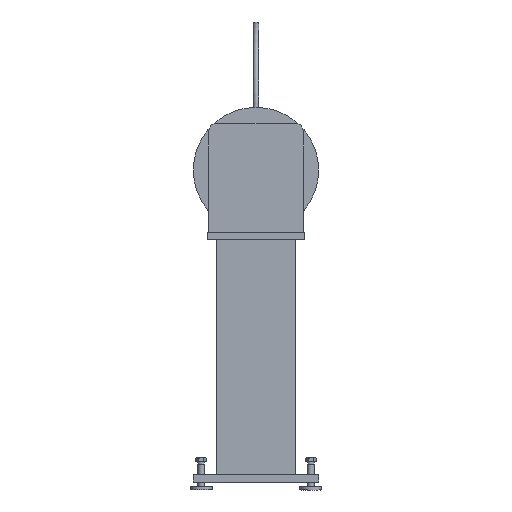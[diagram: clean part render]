
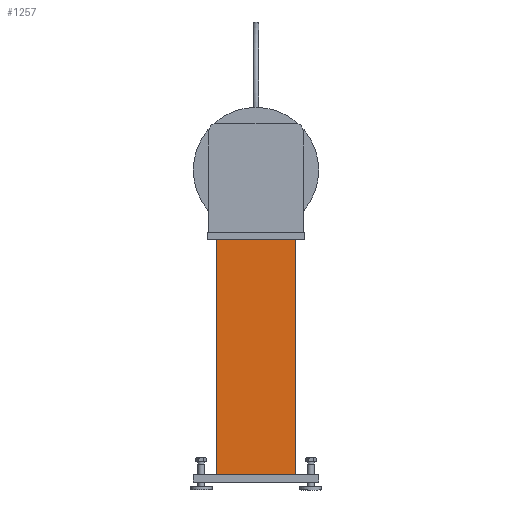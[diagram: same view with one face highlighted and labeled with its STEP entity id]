
A CAD part, front view. The second image highlights one B-rep face of the part: STEP entity #1257.
In plain terms, the highlighted planar face has unit normal (0, -1, 0).
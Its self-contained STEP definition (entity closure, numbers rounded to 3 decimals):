
#201=CARTESIAN_POINT('',(-125.,-1037.5,-140.));
#202=VERTEX_POINT('',#201);
#209=CARTESIAN_POINT('',(-125.,-1037.5,607.5));
#210=VERTEX_POINT('',#209);
#211=CARTESIAN_POINT('',(-125.,-1037.5,-140.));
#212=DIRECTION('',(0.0,0.0,1.0));
#213=VECTOR('',#212,747.5);
#214=LINE('',#211,#213);
#215=EDGE_CURVE('',#202,#210,#214,.T.);
#395=CARTESIAN_POINT('',(125.,-1037.5,-140.));
#396=VERTEX_POINT('',#395);
#397=CARTESIAN_POINT('',(125.,-1037.5,-140.));
#398=DIRECTION('',(-1.0,0.0,0.0));
#399=VECTOR('',#398,250.);
#400=LINE('',#397,#399);
#401=EDGE_CURVE('',#396,#202,#400,.T.);
#1053=CARTESIAN_POINT('',(125.,-1037.5,607.5));
#1054=VERTEX_POINT('',#1053);
#1055=CARTESIAN_POINT('',(-125.,-1037.5,607.5));
#1056=DIRECTION('',(1.0,0.0,0.0));
#1057=VECTOR('',#1056,250.0);
#1058=LINE('',#1055,#1057);
#1059=EDGE_CURVE('',#210,#1054,#1058,.T.);
#1218=CARTESIAN_POINT('',(125.,-1037.5,-140.));
#1219=DIRECTION('',(0.0,0.0,1.0));
#1220=VECTOR('',#1219,747.5);
#1221=LINE('',#1218,#1220);
#1222=EDGE_CURVE('',#396,#1054,#1221,.T.);
#1246=CARTESIAN_POINT('',(109.,-1037.5,233.75));
#1247=DIRECTION('',(0.0,-1.0,0.0));
#1248=DIRECTION('',(1.0,0.0,0.0));
#1249=AXIS2_PLACEMENT_3D('',#1246,#1247,#1248);
#1250=PLANE('',#1249);
#1251=ORIENTED_EDGE('',*,*,#1059,.F.);
#1252=ORIENTED_EDGE('',*,*,#215,.F.);
#1253=ORIENTED_EDGE('',*,*,#401,.F.);
#1254=ORIENTED_EDGE('',*,*,#1222,.T.);
#1255=EDGE_LOOP('',(#1251,#1252,#1253,#1254));
#1256=FACE_OUTER_BOUND('',#1255,.T.);
#1257=ADVANCED_FACE('',(#1256),#1250,.T.);
